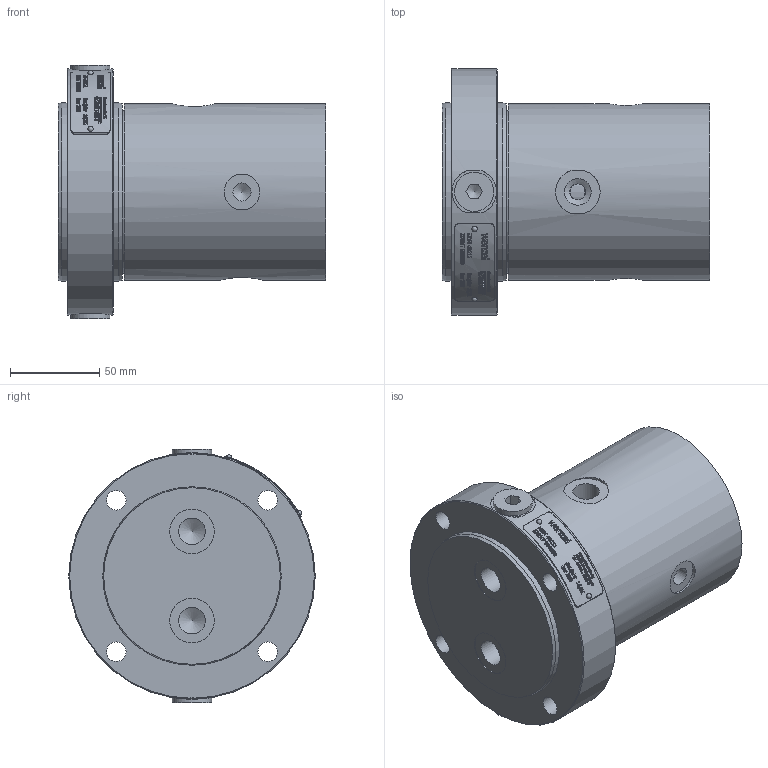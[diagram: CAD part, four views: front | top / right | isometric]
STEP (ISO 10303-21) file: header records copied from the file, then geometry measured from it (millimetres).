
FILE_DESCRIPTION(/* description */ (''),/* implementation_level */ '2;1');
FILE_NAME(/* name */ 'I:\Wenzel\Zeichnungen\Wenzel-1\1489000.stp',/* time_stamp */ '2021-02-08T12:35:18+01:00',/* author */ ('Frank'),/* organization */ (''),/* preprocessor_version */ 'ST-DEVELOPER v18',/* originating_system */ 'Autodesk Inventor 2020',/* authorisation */ '');
FILE_SCHEMA (('AUTOMOTIVE_DESIGN { 1 0 10303 214 3 1 1 }'));
Products named in the file (14): 1489000; 1489030; DIN 625 T1 - 6008 - 40 x 68 x 15; 1489020; DIN 625 T1 - 6010 - 50 x 80 x 16; DIN 988 - S40 x 50; DIN 471 - 40 x 1,75; DIN 908 - M10 x 1; TG3200450-T10E; trelleborg_tg3200450-t10e_1qeqpxfe2unex80oj5r89l81d_03; trelleborg_tg3200450-t10e_1qeqpxfe2unex80oj5r89l81d_02; trelleborg_tg3200450-t10e_1qeqpxfe2unex80oj5r89l81d_01; 1489040; DIN 908 - G 0,375 A
Assembly tree (17 placements, depth 3):
  1489000
    1489030
    DIN 625 T1 - 6008 - 40 x 68 x 15
    1489020
    DIN 625 T1 - 6010 - 50 x 80 x 16
    DIN 988 - S40 x 50
    DIN 471 - 40 x 1,75
    DIN 908 - M10 x 1  x2
    TG3200450-T10E  x3
      trelleborg_tg3200450-t10e_1qeqpxfe2unex80oj5r89l81d_03
      trelleborg_tg3200450-t10e_1qeqpxfe2unex80oj5r89l81d_02
      trelleborg_tg3200450-t10e_1qeqpxfe2unex80oj5r89l81d_01
    1489040
    DIN 908 - G 0,375 A  x2
Bounding box: 150 x 138 x 142 mm (x, y, z)
Volume: 1207571.7 mm3; surface area: 217107.3 mm2
Topology: 43 solids, 43 shells, 1973 faces, 5460 edges, 3702 vertices
Faces by surface type: bspline 860, plane 658, cylinder 286, torus 90, cone 56, sphere 23
Full cylindrical faces by diameter (mm): 0.21 x15, 2.5 x2, 6.647 x4, 8.917 x2, 9 x8, 10 x2, 10.106 x2, 11 x4, 14 x2, 14.95 x6, 16 x2, 16.662 x2, 20 x2, 22 x2, 25 x2, 37.5 x1, 40 x4, 44 x1, 45 x12, 45.1 x4, 46.509 x6, 48.96 x2, 50 x3, 50.357 x6, 51.5 x6, 56 x7, 59.04 x2, 59.6 x2, 63 x1, 68 x2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
Entity records: 84962 total; most frequent: CARTESIAN_POINT 39501, ORIENTED_EDGE 10320, DIRECTION 6645, EDGE_CURVE 5160, VERTEX_POINT 3576, AXIS2_PLACEMENT_3D 2249, LINE 2147, VECTOR 2147
